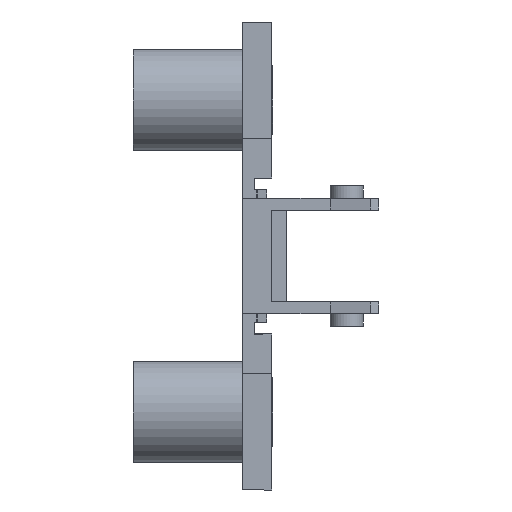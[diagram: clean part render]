
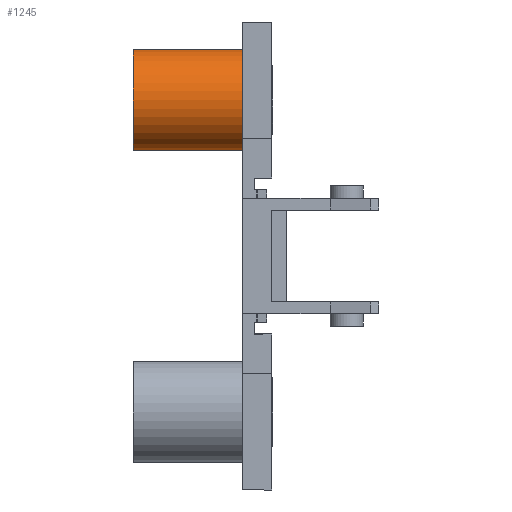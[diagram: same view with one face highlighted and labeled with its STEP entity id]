
A CAD part, front view. The second image highlights one B-rep face of the part: STEP entity #1245.
In plain terms, the highlighted cylindrical face has radius 5.2 mm (diameter 10.4 mm), a partial arc.
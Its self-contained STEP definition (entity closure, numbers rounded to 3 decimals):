
#264 = VERTEX_POINT ( 'NONE', #1963 ) ;
#287 = FACE_OUTER_BOUND ( 'NONE', #2644, .T. ) ;
#313 = VERTEX_POINT ( 'NONE', #2487 ) ;
#504 = EDGE_CURVE ( 'NONE', #264, #2559, #1713, .T. ) ;
#604 = DIRECTION ( 'NONE',  ( 0., 0., -1. ) ) ;
#705 = CARTESIAN_POINT ( 'NONE',  ( -3.5, -9., 16. ) ) ;
#941 = DIRECTION ( 'NONE',  ( -1., 0., 0. ) ) ;
#963 = ORIENTED_EDGE ( 'NONE', *, *, #2894, .F. ) ;
#1049 = VERTEX_POINT ( 'NONE', #2759 ) ;
#1165 = AXIS2_PLACEMENT_3D ( 'NONE', #2598, #941, #2281 ) ;
#1169 = CYLINDRICAL_SURFACE ( 'NONE', #2859, 5.2 ) ;
#1245 = ADVANCED_FACE ( 'NONE', ( #287 ), #1169, .T. ) ;
#1310 = AXIS2_PLACEMENT_3D ( 'NONE', #705, #2599, #1781 ) ;
#1405 = DIRECTION ( 'NONE',  ( 1., 0., 0. ) ) ;
#1708 = CARTESIAN_POINT ( 'NONE',  ( -14.7, -9., 16. ) ) ;
#1713 = LINE ( 'NONE', #2643, #2223 ) ;
#1781 = DIRECTION ( 'NONE',  ( 0., 0., -1. ) ) ;
#1881 = EDGE_CURVE ( 'NONE', #2559, #1049, #2712, .T. ) ;
#1963 = CARTESIAN_POINT ( 'NONE',  ( -14.7, -9., 10.8 ) ) ;
#2043 = CARTESIAN_POINT ( 'NONE',  ( -3.5, -9., 10.8 ) ) ;
#2223 = VECTOR ( 'NONE', #2355, 1000. ) ;
#2281 = DIRECTION ( 'NONE',  ( 0., 0., 1. ) ) ;
#2355 = DIRECTION ( 'NONE',  ( 1., 0., 0. ) ) ;
#2487 = CARTESIAN_POINT ( 'NONE',  ( -14.7, -9., 21.2 ) ) ;
#2498 = EDGE_CURVE ( 'NONE', #264, #313, #2573, .T. ) ;
#2559 = VERTEX_POINT ( 'NONE', #2043 ) ;
#2573 = CIRCLE ( 'NONE', #1165, 5.2 ) ;
#2598 = CARTESIAN_POINT ( 'NONE',  ( -14.7, -9., 16. ) ) ;
#2599 = DIRECTION ( 'NONE',  ( -1., 0., 0. ) ) ;
#2643 = CARTESIAN_POINT ( 'NONE',  ( -14.7, -9., 10.8 ) ) ;
#2644 = EDGE_LOOP ( 'NONE', ( #963, #3019, #3287, #3329 ) ) ;
#2701 = VECTOR ( 'NONE', #3335, 1000. ) ;
#2712 = CIRCLE ( 'NONE', #1310, 5.2 ) ;
#2759 = CARTESIAN_POINT ( 'NONE',  ( -3.5, -9., 21.2 ) ) ;
#2859 = AXIS2_PLACEMENT_3D ( 'NONE', #1708, #1405, #604 ) ;
#2872 = LINE ( 'NONE', #3064, #2701 ) ;
#2894 = EDGE_CURVE ( 'NONE', #313, #1049, #2872, .T. ) ;
#3019 = ORIENTED_EDGE ( 'NONE', *, *, #2498, .F. ) ;
#3064 = CARTESIAN_POINT ( 'NONE',  ( -14.7, -9., 21.2 ) ) ;
#3287 = ORIENTED_EDGE ( 'NONE', *, *, #504, .T. ) ;
#3329 = ORIENTED_EDGE ( 'NONE', *, *, #1881, .T. ) ;
#3335 = DIRECTION ( 'NONE',  ( 1., 0., 0. ) ) ;
